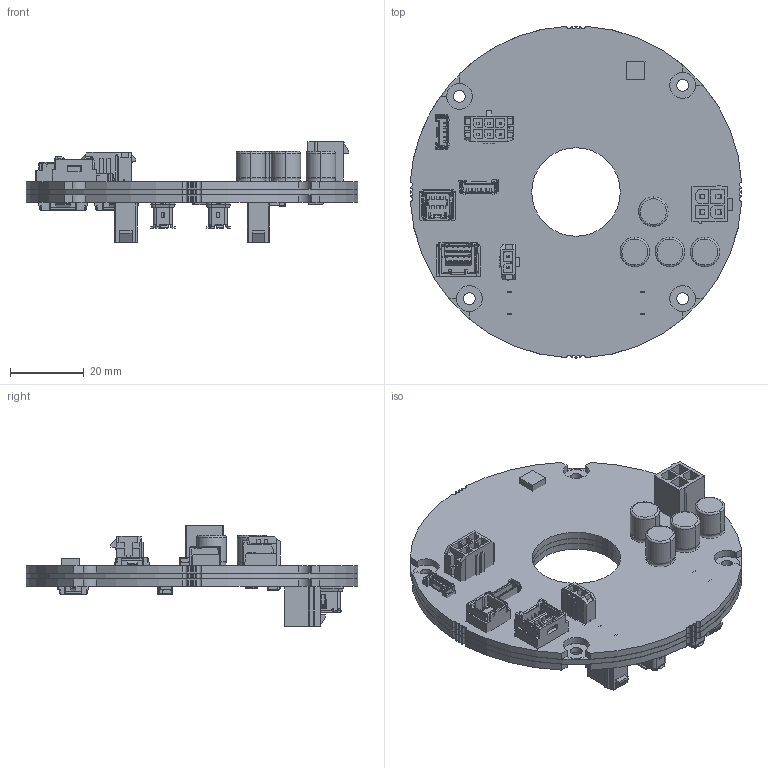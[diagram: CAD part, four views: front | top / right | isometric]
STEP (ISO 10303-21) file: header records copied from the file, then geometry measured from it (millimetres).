
FILE_DESCRIPTION((''),'2;1');
FILE_NAME('EPOS4_DISK_6010_688775_CAN_ASM','2022-01-10T14:37:56',('MMAGODEM'),(''),'CREO PARAMETRIC BY PTC INC, 2020342','CREO PARAMETRIC BY PTC INC, 2020342','');
FILE_SCHEMA(('CONFIG_CONTROL_DESIGN','SHAPE_APPEARANCE_LAYERS_GROUPS'));
Products named in the file (60): EPOS4_DISK_6010_ETHERCAT_PCB_AF0; EPOS4_DISK_6010_ETHERCAT_LOETSB_AF0; EPOS4_DISK_6010_ETHERCAT_LOETST_AF1; 8_SIZE_CODE_F00; PRT0004; 5054330871_AF0; 5055680571_3_1; 5055680571_3_ASM; 5055680571_ASM; 5055680671_3_1_2_1; 5055680671_3_1_2_ASM; 5055680671__ASM; 5055680471_3_1; 5055680471_3_ASM; 5055680471_ASM; 5055680871_3_1; 5055680871_3_ASM; 5055680871_ASM; 5055680771_3_1; 5055680771_3_ASM; 5055680771_ASM; IC; DROSSEL_1; 1206_C; SOD-123F; SO-8EP; QFN50P700X700X100-48N_MPA; QFN50P500X500X60-32N_ST_UFQFPN3; BSC040N08NS5; LED_BASE; LED_GREEN; LED0603_GREEN_ASM; LED_RED; LED0603_RED_ASM; LQH2HPN220MJR; PRT0006; PESD2IVN24-UX; DROSSEL_KL; A6H-6102; 436500215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
Assembly tree (72 placements, depth 4):
  EPOS4_DISK_6010_688775_CAN_ASM
    EPOS4_DISK_6010_ETHERCAT_PCB_AF0
    EPOS4_DISK_6010_ETHERCAT_LOETSB_AF0
    EPOS4_DISK_6010_ETHERCAT_LOETST_AF1
    8_SIZE_CODE_F00  x3
    PRT0004
    5054330871_AF0
    5055680571_ASM
      5055680571_3_ASM
        5055680571_3_1
    5055680671__ASM
      5055680671_3_1_2_ASM
        5055680671_3_1_2_1
    5055680471_ASM
      5055680471_3_ASM
        5055680471_3_1
    5055680871_ASM
      5055680871_3_ASM
        5055680871_3_1
    5055680771_ASM
      5055680771_3_ASM
        5055680771_3_1
    IC
    DROSSEL_1
    1206_C  x2
    SOD-123F
    SO-8EP
    QFN50P700X700X100-48N_MPA
    QFN50P500X500X60-32N_ST_UFQFPN3
    BSC040N08NS5  x6
    LED0603_GREEN_ASM
      LED_BASE
      LED_GREEN
    LED0603_RED_ASM
      LED_BASE
      LED_RED
    LQH2HPN220MJR
    PRT0006  x2
    PESD2IVN24-UX  x2
    DROSSEL_KL
    A6H-6102
    436500215
    503154-1090_ASM
    39281043_TIN
    430450618_TIN
    039281023_BO_ASM  x2
    EXCLUSION_ZONE_TOP_AF0
    EXCLUSION_ZONE_BOT_AF0
    SMBJ60A
    0456025_ER_ASM
      0463020_ER_ASM
        BOSS-EXTRUDE2
        MIRROR2
        FILLET1
    SMA60_ASM
      SMBJ16A_ASM
        CUT-EXTRUDE2
        MIRROR1
        BOSS-EXTRUDE3
        BOSS-EXTRUDE2_1
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Bounding box: 90 x 90 x 27.2 mm (x, y, z)
Volume: 37976.7 mm3; surface area: 73239.9 mm2
Topology: 63 solids, 68 shells, 7300 faces, 20386 edges, 13295 vertices
Faces by surface type: plane 5437, cylinder 1333, extrusion 336, sphere 68, cone 62, torus 56, bspline 8
Entity records: 262812 total; most frequent: CARTESIAN_POINT 38171, ORIENTED_EDGE 33316, DIRECTION 29482, PRESENTATION_STYLE_ASSIGNMENT 19688, STYLED_ITEM 18330, CURVE_STYLE 16994, EDGE_CURVE 16658, VECTOR 14204
